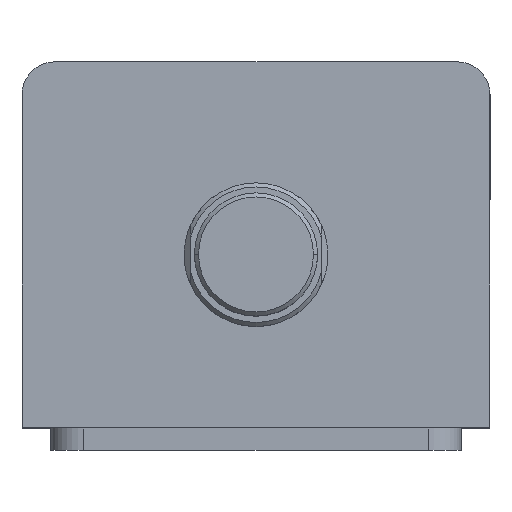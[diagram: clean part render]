
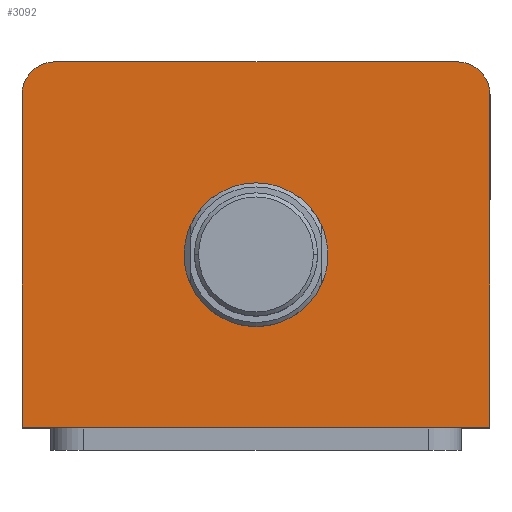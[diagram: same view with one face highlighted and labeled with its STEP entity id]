
A CAD part, top view. The second image highlights one B-rep face of the part: STEP entity #3092.
In plain terms, the highlighted planar face has unit normal (0, 0, 1).
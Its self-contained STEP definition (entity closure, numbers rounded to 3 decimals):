
#179 = EDGE_CURVE ( 'NONE', #862, #859, #2037, .T. ) ;
#272 = VERTEX_POINT ( 'NONE', #3159 ) ;
#330 = CARTESIAN_POINT ( 'NONE',  ( -57., 44.5, 167. ) ) ;
#342 = DIRECTION ( 'NONE',  ( 0., -1., 0. ) ) ;
#507 = DIRECTION ( 'NONE',  ( 1., 0., 0. ) ) ;
#508 = DIRECTION ( 'NONE',  ( 0., 0., 1. ) ) ;
#509 = CARTESIAN_POINT ( 'NONE',  ( -49., 36.5, 167. ) ) ;
#616 = EDGE_LOOP ( 'NONE', ( #1184, #1186 ) ) ;
#618 = EDGE_LOOP ( 'NONE', ( #1188, #1189, #1191, #1193, #1194, #1195 ) ) ;
#630 = DIRECTION ( 'NONE',  ( 0., 1., 0. ) ) ;
#635 = CARTESIAN_POINT ( 'NONE',  ( 57., 44.5, 167. ) ) ;
#757 = DIRECTION ( 'NONE',  ( 1., 0., 0. ) ) ;
#758 = DIRECTION ( 'NONE',  ( 0., 0., 1. ) ) ;
#760 = PLANE ( 'NONE',  #2537 ) ;
#763 = CARTESIAN_POINT ( 'NONE',  ( 0., 0., 167. ) ) ;
#859 = VERTEX_POINT ( 'NONE', #3499 ) ;
#862 = VERTEX_POINT ( 'NONE', #3491 ) ;
#868 = VERTEX_POINT ( 'NONE', #3485 ) ;
#880 = VERTEX_POINT ( 'NONE', #3470 ) ;
#881 = VERTEX_POINT ( 'NONE', #3468 ) ;
#884 = VERTEX_POINT ( 'NONE', #3465 ) ;
#892 = VERTEX_POINT ( 'NONE', #3445 ) ;
#1184 = ORIENTED_EDGE ( 'NONE', *, *, #2330, .F. ) ;
#1186 = ORIENTED_EDGE ( 'NONE', *, *, #2328, .F. ) ;
#1188 = ORIENTED_EDGE ( 'NONE', *, *, #2257, .T. ) ;
#1189 = ORIENTED_EDGE ( 'NONE', *, *, #2167, .T. ) ;
#1191 = ORIENTED_EDGE ( 'NONE', *, *, #2162, .T. ) ;
#1193 = ORIENTED_EDGE ( 'NONE', *, *, #2334, .T. ) ;
#1194 = ORIENTED_EDGE ( 'NONE', *, *, #3325, .T. ) ;
#1195 = ORIENTED_EDGE ( 'NONE', *, *, #179, .T. ) ;
#1521 = LINE ( 'NONE', #330, #1524 ) ;
#1523 = CIRCLE ( 'NONE', #2415, 8. ) ;
#1524 = VECTOR ( 'NONE', #342, 1000. ) ;
#1646 = LINE ( 'NONE', #2995, #1649 ) ;
#1649 = VECTOR ( 'NONE', #2993, 1000. ) ;
#1742 = CIRCLE ( 'NONE', #2489, 17.5 ) ;
#1747 = CIRCLE ( 'NONE', #2491, 17.5 ) ;
#1752 = LINE ( 'NONE', #3238, #1755 ) ;
#1755 = VECTOR ( 'NONE', #3237, 1000. ) ;
#1844 = FACE_OUTER_BOUND ( 'NONE', #618, .T. ) ;
#1853 = FACE_BOUND ( 'NONE', #616, .T. ) ;
#1923 = LINE ( 'NONE', #635, #1926 ) ;
#1926 = VECTOR ( 'NONE', #630, 1000. ) ;
#2037 = CIRCLE ( 'NONE', #2364, 8. ) ;
#2162 = EDGE_CURVE ( 'NONE', #868, #892, #1521, .T. ) ;
#2167 = EDGE_CURVE ( 'NONE', #272, #868, #1523, .T. ) ;
#2257 = EDGE_CURVE ( 'NONE', #859, #272, #1646, .T. ) ;
#2328 = EDGE_CURVE ( 'NONE', #881, #884, #1742, .T. ) ;
#2330 = EDGE_CURVE ( 'NONE', #884, #881, #1747, .T. ) ;
#2334 = EDGE_CURVE ( 'NONE', #892, #880, #1752, .T. ) ;
#2364 = AXIS2_PLACEMENT_3D ( 'NONE', #3156, #3155, #3154 ) ;
#2415 = AXIS2_PLACEMENT_3D ( 'NONE', #509, #508, #507 ) ;
#2489 = AXIS2_PLACEMENT_3D ( 'NONE', #3263, #3262, #3261 ) ;
#2491 = AXIS2_PLACEMENT_3D ( 'NONE', #3252, #3251, #3250 ) ;
#2537 = AXIS2_PLACEMENT_3D ( 'NONE', #763, #758, #757 ) ;
#2993 = DIRECTION ( 'NONE',  ( -1., 0., 0. ) ) ;
#2995 = CARTESIAN_POINT ( 'NONE',  ( -57., 44.5, 167. ) ) ;
#3092 = ADVANCED_FACE ( 'NONE', ( #1853, #1844 ), #760, .T. ) ;
#3154 = DIRECTION ( 'NONE',  ( 1., 0., 0. ) ) ;
#3155 = DIRECTION ( 'NONE',  ( 0., 0., 1. ) ) ;
#3156 = CARTESIAN_POINT ( 'NONE',  ( 49., 36.5, 167. ) ) ;
#3159 = CARTESIAN_POINT ( 'NONE',  ( -49., 44.5, 167. ) ) ;
#3237 = DIRECTION ( 'NONE',  ( 1., 0., 0. ) ) ;
#3238 = CARTESIAN_POINT ( 'NONE',  ( -57., -44.5, 167. ) ) ;
#3250 = DIRECTION ( 'NONE',  ( 1., 0., 0. ) ) ;
#3251 = DIRECTION ( 'NONE',  ( 0., 0., 1. ) ) ;
#3252 = CARTESIAN_POINT ( 'NONE',  ( 0., -2.5, 167. ) ) ;
#3261 = DIRECTION ( 'NONE',  ( 1., 0., 0. ) ) ;
#3262 = DIRECTION ( 'NONE',  ( 0., 0., 1. ) ) ;
#3263 = CARTESIAN_POINT ( 'NONE',  ( 0., -2.5, 167. ) ) ;
#3325 = EDGE_CURVE ( 'NONE', #880, #862, #1923, .T. ) ;
#3445 = CARTESIAN_POINT ( 'NONE',  ( -57., -44.5, 167. ) ) ;
#3465 = CARTESIAN_POINT ( 'NONE',  ( 17.5, -2.5, 167. ) ) ;
#3468 = CARTESIAN_POINT ( 'NONE',  ( -17.5, -2.5, 167. ) ) ;
#3470 = CARTESIAN_POINT ( 'NONE',  ( 57., -44.5, 167. ) ) ;
#3485 = CARTESIAN_POINT ( 'NONE',  ( -57., 36.5, 167. ) ) ;
#3491 = CARTESIAN_POINT ( 'NONE',  ( 57., 36.5, 167. ) ) ;
#3499 = CARTESIAN_POINT ( 'NONE',  ( 49., 44.5, 167. ) ) ;
